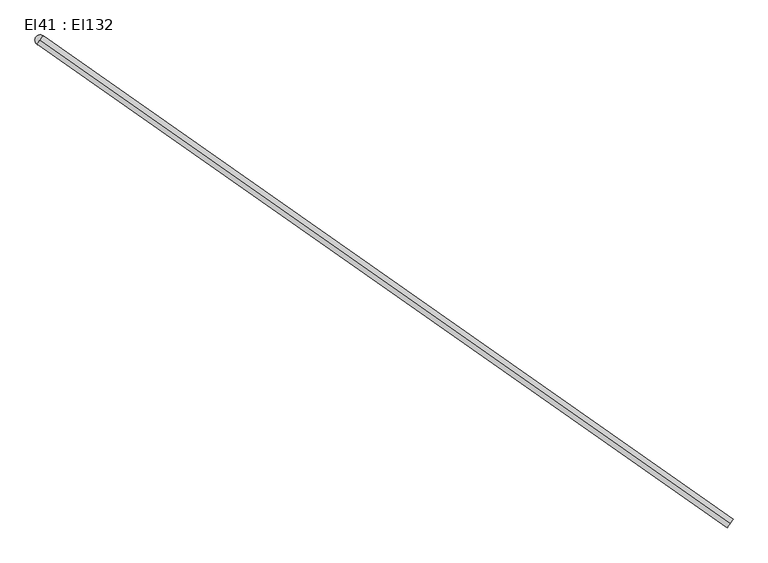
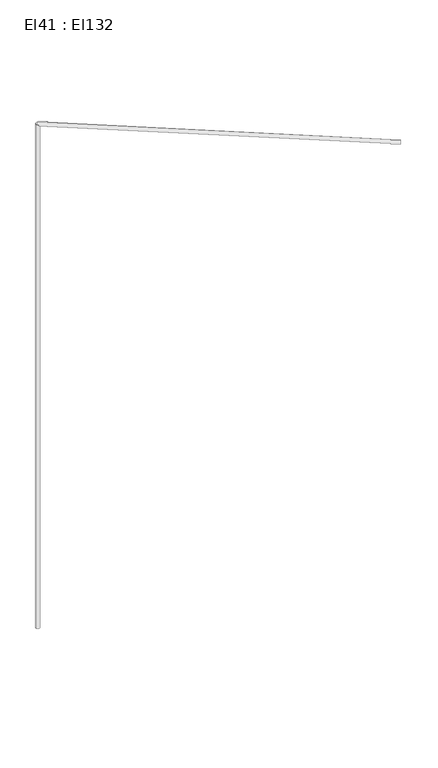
"""IFC4 building model written with IfcOpenShell, lengths in millimetres: cable carrier segment geometry, El41 : El132."""

from ifc_helpers import new_model, si_unit, point, frame, frame_2d, origin, place, context, project, spatial, circle_curve, trimmed, segment, composite_curve, outline, extrude, source, transform, mapped, element, save


def el41_el132_4a7a4d96(model_context):
    return source(origin(), model_context, "Body", "SweptSolid", [
        extrude(outline(composite_curve([segment(trimmed(circle_curve(frame_2d((0.0, -9.5)), 9.5), [point((0.0, -19.0))], [point((0.0, 0.0))], False, "CARTESIAN"), True, "CONTINUOUS"), segment(trimmed(circle_curve(frame_2d((0.0, -9.5)), 9.5), [point((0.0, 0.0))], [point((0.0, -19.0))], False, "CARTESIAN"), True, "CONTINUOUS")], self_intersect=False)), frame((26416.9369128, 2330.213249, 4459.5), z_axis=(-0.8187661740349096, 0.5741271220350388, 0.0), x_axis=(-0.5741271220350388, -0.8187661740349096, 0.0)), (0.0, 0.0, 1.0), 1554.14),
        extrude(outline(composite_curve([segment(trimmed(circle_curve(frame_2d((25144.4596511, 3222.4871745)), 9.5), [point((25134.9596511, 3222.4871745))], [point((25153.9596511, 3222.4871745))], False, "CARTESIAN"), True, "CONTINUOUS"), segment(trimmed(circle_curve(frame_2d((25144.4596511, 3222.4871745)), 9.5), [point((25153.9596511, 3222.4871745))], [point((25134.9596511, 3222.4871745))], False, "CARTESIAN"), True, "CONTINUOUS")], self_intersect=False)), frame((0.0, 0.0, 1830.0), z_axis=(0.0, 0.0, 1.0), x_axis=(1.0, 0.0, 0.0)), (0.0, 0.0, 1.0), 2620.0),
    ])


if __name__ == "__main__":
    model = new_model("IFC4")
    model_context = context("Model", 3, world=origin())
    ifc_project = project(units=[si_unit("LENGTHUNIT", "METRE", prefix="MILLI")], contexts=[model_context])
    site = spatial("IfcSite", under=ifc_project)
    building = spatial("IfcBuilding", under=site)
    placement = place(None, origin())
    el41_el132_shape = el41_el132_4a7a4d96(model_context)
    element("IfcCableCarrierSegment", 1, ObjectType="El41 : El132", at=placement, inside=building, context=model_context, shape_type="MappedRepresentation", body=[
        mapped(el41_el132_shape, transform((0.0, 0.0, 0.0), x_axis=(1.0, 0.0, 0.0), y_axis=(0.0, 1.0, 0.0), z_axis=(0.0, 0.0, 1.0))),
    ])
    save(model, "model.ifc")
